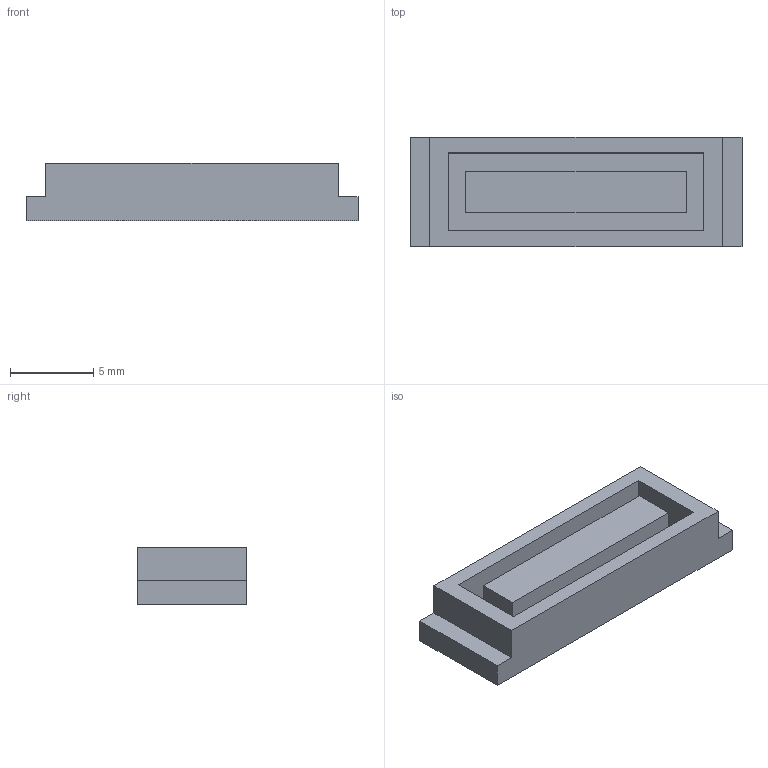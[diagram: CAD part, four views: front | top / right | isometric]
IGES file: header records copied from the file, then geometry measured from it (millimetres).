
Start section:  PTC IGES file: j4rj-cn9.igs
Global section: file name: j4rj-cn9.igs; native system: Pro/ENGINEER by Parametric Technology Corporation; preprocessor: 2011490; author: JE18792; organization: Unknown; date: 20131128.192100; units: millimetre
Bounding box: 20 x 6.6 x 3.45 mm (x, y, z)
Volume: 320.1 mm3; surface area: 622.9 mm2
Topology: 1 solids, 1 shells, 20 faces, 48 edges, 32 vertices
Faces by surface type: bspline 20
